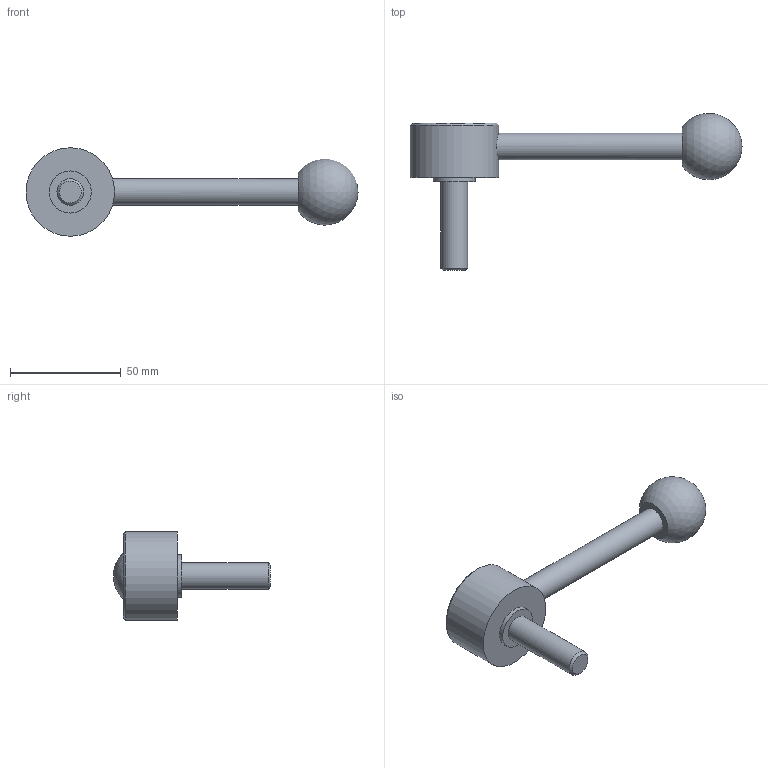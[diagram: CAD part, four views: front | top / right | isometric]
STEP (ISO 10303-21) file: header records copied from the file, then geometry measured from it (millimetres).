
FILE_DESCRIPTION( ( 'STEP AP203' ), '1' );
FILE_NAME( 'C:/Temp/Ganter_Step_05_03_2020/data/2_1/gn_125/gn_125_ms/gn_125_ms_d/Flat Adjustable Lever GN 125-40-M12-40-D.stp', '2020-03-05T11:00:51', ( 'License CC BY-ND 4.0' ), ( 'CADENAS' ), ' ', 'PARTsolutions', ' ' );
FILE_SCHEMA( ( 'CONFIG_CONTROL_DESIGN' ) );
Length unit declared in the file: millimetre
Products named in the file (1): _Flat Adjustable Lever GN 125-40-M12-40-D
Bounding box: 150 x 70.89 x 40 mm (x, y, z)
Volume: 58796.6 mm3; surface area: 12859.2 mm2
Topology: 1 solids, 1 shells, 14 faces, 23 edges, 15 vertices
Faces by surface type: plane 6, cylinder 5, cone 2, sphere 1
Full cylindrical faces by diameter (mm): 12 x2, 19 x1, 28 x1, 40 x1
Entity records: 402 total; most frequent: CARTESIAN_POINT 125, DIRECTION 54, AXIS2_PLACEMENT_3D 27, EDGE_LOOP 26, ORIENTED_EDGE 26, FACE_OUTER_BOUND 19, ADVANCED_FACE 14, VERTEX_POINT 14
